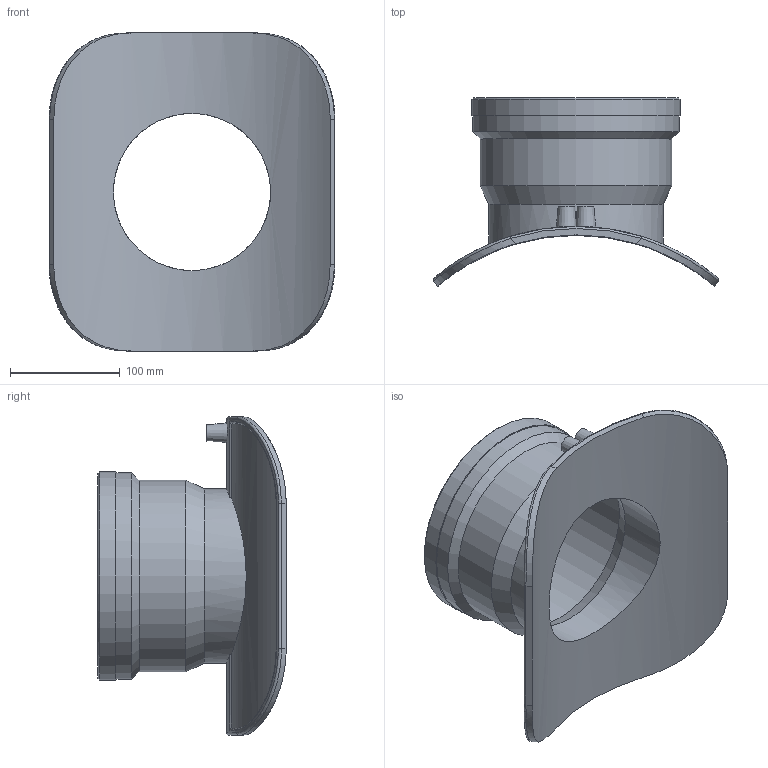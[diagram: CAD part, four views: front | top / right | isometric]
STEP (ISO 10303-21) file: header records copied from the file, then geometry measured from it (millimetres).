
FILE_DESCRIPTION(/* description */ ('PLASSON WASTEWATER SADDLE TEE 90 14''''DIPS x 6''''PSM for PVC'),/* implementation_level */ '2;1');
FILE_NAME(/* name */ 'C:\Dropbox\KIMPROJECTS-Inventor 2019\99-16-3568-Processing Inch\ASTM ElectroFusion 2021\5758BP\5758BPV4220060.ipt.stp',/* time_stamp */ '2021-08-30T09:48:23+03:00',/* author */ ('Кирилл'),/* organization */ (''),/* preprocessor_version */ 'ST-DEVELOPER v17.2',/* originating_system */ 'Autodesk Inventor 2019',/* authorisation */ '');
FILE_SCHEMA (('AUTOMOTIVE_DESIGN { 1 0 10303 214 3 1 1 }'));
Length unit declared in the file: inch
Products named in the file (1): 5758BPV4220060
Bounding box: 260.01 x 171.46 x 289.56 mm (x, y, z)
Volume: 1049605.6 mm3; surface area: 272337.9 mm2
Topology: 1 solids, 1 shells, 69 faces, 174 edges, 115 vertices
Faces by surface type: cylinder 30, plane 13, cone 12, bspline 8, torus 6
Full cylindrical faces by diameter (mm): 4 x2, 10 x2, 143.19 x1, 158.636 x1, 159.1 x3, 174.546 x1, 188.092 x1, 189.992 x1
Entity records: 3101 total; most frequent: CARTESIAN_POINT 1423, ORIENTED_EDGE 348, DIRECTION 332, EDGE_CURVE 174, AXIS2_PLACEMENT_3D 140, VERTEX_POINT 115, EDGE_LOOP 79, CIRCLE 78
